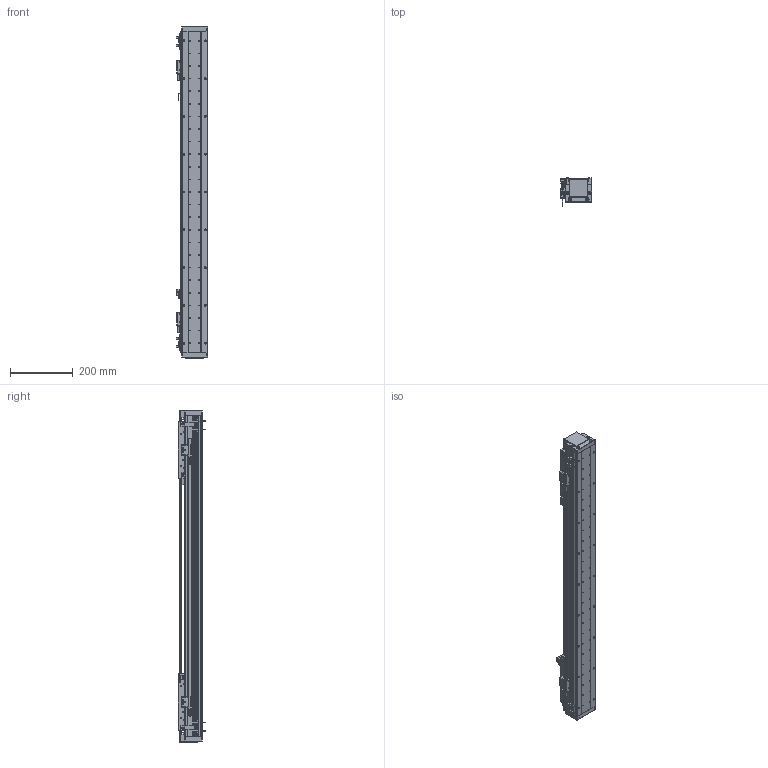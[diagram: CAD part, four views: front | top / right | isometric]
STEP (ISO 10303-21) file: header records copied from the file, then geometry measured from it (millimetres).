
FILE_DESCRIPTION (( 'STEP AP203' ), '1' );
FILE_NAME ('DA-A82-2-B2-T600-C010-0.2 眻盄萇儂.STEP', '2025-08-13T02:30:10', ( '' ), ( '' ), 'SwSTEP 2.0', 'SolidWorks 2019', '' );
FILE_SCHEMA (( 'CONFIG_CONTROL_DESIGN' ));
Length unit declared in the file: millimetre
Products named in the file (27): 复件 DA95-GT-T-00 底座钢轨^IU-AU82-L 底座导轨; DA-A82-2-B2-T600-C010-0.2 眻盄萇儂; 复件 六角薄螺母 M3^DA-A82-B2-T-C010-0.2-N 直线电机; 复件 复件 DA82-XJ-00 缓冲橡胶^DA-A82-B2-T-C010-0.2-N 直线电机; 复件 DA82-T-002-00 盖板^DA-A82-B2-T-C010-0.2-N 直线电机; 葩璃 BKM01-W040-TRL^DA-A82-B2-T-C010-0.2-N 眻盄萇儂; DA-A60-GYP-DMT-00 光电感应片^DA-A82-B2-T-C010-0.2-N 直线电机(默认); 葩璃 DMT-010 1米m 0.2M^DA-A82-B2-T-C010-0.2-N 眻盄萇儂; 复件 BKM02-W040-C1-TP-DA-3.0 直线电机动子^DA-A82-B2-T-C010-0.2-N 直线电机; 复件 纯铜油杯 6x6mm^AU82-M 滚珠滑台; AU82-M-00 珨极趙賑雄怢啣-1; 复件 XD-U-02  磁栅尺^DA-A82-B2-T-C010-0.2-N 直线电机; 复件 DA82-GYP-ZJ-00 中间光电感应片^DA-A82-B2-T-C010-0.2-N 直线电机; 复件 DA60-DMT-DTJ-00 读数头支架^DA-A82-B2-T-C010-0.2-N 直线电机; 复件 DA82-DG-H-N-00 端盖^DA-A82-B2-T-C010-0.2-N 直线电机(默认_按加工_); AU82-HT-M-00 賑雄怢啣; 葩璃 DA82-B2-DP-00 結え^AU82-M 幗紩賑怢; 复件 DKW-GJ-XJ-00 防撞橡胶^DA-A82-B2-T-C010-0.2-N 直线电机; AU82-M 幗紩賑怢-1; IU-AU82-L 菁釱絳寢; AU82-M 幗紩賑怢; 葩璃 PM-T45^DA-A82-B2-T-C010-0.2-N 眻盄萇儂; IU-AU82-L-00 菁釱(L1020); 复件 DA82-GDZ-ZJ-00 中间光电固定座^DA-A82-B2-T-C010-0.2-N 直线电机; AU82-M-00 珨极趙賑雄怢啣; 复件 DA95-B2-GT-00 滑块钢轨^AU82-M-00 一体化滑动台板; 葩璃 PM-L25^DA-A82-B2-T-C010-0.2-N 眻盄萇儂
Assembly tree (57 placements, depth 4):
  DA-A82-2-B2-T600-C010-0.2 眻盄萇儂
    IU-AU82-L 菁釱絳寢
      IU-AU82-L-00 菁釱(L1020)
      复件 DA95-GT-T-00 底座钢轨^IU-AU82-L 底座导轨  x2
    AU82-M 幗紩賑怢
      AU82-M-00 珨极趙賑雄怢啣
        AU82-HT-M-00 賑雄怢啣
        复件 DA95-B2-GT-00 滑块钢轨^AU82-M-00 一体化滑动台板  x4
      葩璃 DA82-B2-DP-00 結え^AU82-M 幗紩賑怢  x2
      复件 纯铜油杯 6x6mm^AU82-M 滚珠滑台  x2
    AU82-M 幗紩賑怢-1
      AU82-M-00 珨极趙賑雄怢啣-1
        AU82-HT-M-00 賑雄怢啣
        复件 DA95-B2-GT-00 滑块钢轨^AU82-M-00 一体化滑动台板  x4
      葩璃 DA82-B2-DP-00 結え^AU82-M 幗紩賑怢  x2
      复件 纯铜油杯 6x6mm^AU82-M 滚珠滑台  x2
    复件 BKM02-W040-C1-TP-DA-3.0 直线电机动子^DA-A82-B2-T-C010-0.2-N 直线电机  x2
    复件 DA60-DMT-DTJ-00 读数头支架^DA-A82-B2-T-C010-0.2-N 直线电机  x2
    葩璃 DMT-010 1米m 0.2M^DA-A82-B2-T-C010-0.2-N 眻盄萇儂  x2
    DA-A60-GYP-DMT-00 光电感应片^DA-A82-B2-T-C010-0.2-N 直线电机(默认)  x2
    复件 DA82-GDZ-ZJ-00 中间光电固定座^DA-A82-B2-T-C010-0.2-N 直线电机
    葩璃 PM-L25^DA-A82-B2-T-C010-0.2-N 眻盄萇儂
    复件 DA82-GYP-ZJ-00 中间光电感应片^DA-A82-B2-T-C010-0.2-N 直线电机
    复件 DKW-GJ-XJ-00 防撞橡胶^DA-A82-B2-T-C010-0.2-N 直线电机
    复件 复件 DA82-XJ-00 缓冲橡胶^DA-A82-B2-T-C010-0.2-N 直线电机  x2
    复件 DA82-DG-H-N-00 端盖^DA-A82-B2-T-C010-0.2-N 直线电机(默认_按加工_)  x2
    复件 DA82-T-002-00 盖板^DA-A82-B2-T-C010-0.2-N 直线电机
    葩璃 BKM01-W040-TRL^DA-A82-B2-T-C010-0.2-N 眻盄萇儂
    葩璃 PM-T45^DA-A82-B2-T-C010-0.2-N 眻盄萇儂  x4
    复件 XD-U-02  磁栅尺^DA-A82-B2-T-C010-0.2-N 直线电机
    复件 六角薄螺母 M3^DA-A82-B2-T-C010-0.2-N 直线电机  x8
Bounding box: 98.95 x 87.2 x 1054 mm (x, y, z)
Volume: 3831505 mm3; surface area: 1082228.4 mm2
Topology: 66 solids, 114 shells, 3123 faces, 7999 edges, 4928 vertices
Faces by surface type: cylinder 1365, plane 1248, cone 436, torus 46, bspline 20, sphere 8
Entity records: 61333 total; most frequent: CARTESIAN_POINT 13312, DIRECTION 9532, ORIENTED_EDGE 8950, EDGE_CURVE 4475, AXIS2_PLACEMENT_3D 3585, VERTEX_POINT 2899, LINE 2362, VECTOR 2362
